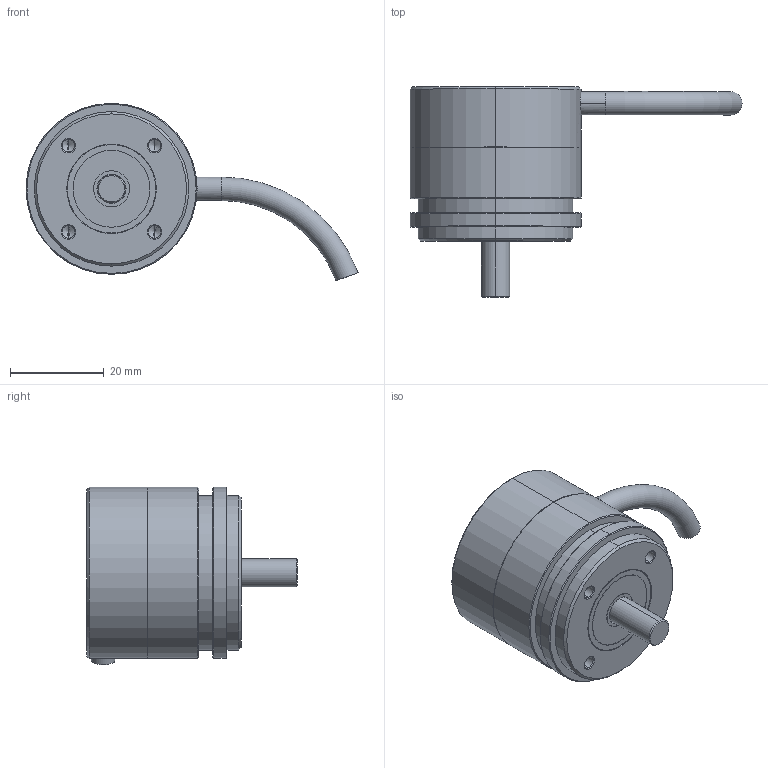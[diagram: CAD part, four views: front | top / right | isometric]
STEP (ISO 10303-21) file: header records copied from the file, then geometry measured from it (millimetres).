
FILE_DESCRIPTION (( 'STEP AP203' ), '1' );
FILE_NAME ('re36ip53radial-3d.step', '2006-09-05T12:59:58', ( '' ), ( '' ), 'SwSTEP 1.0', 'SolidWorks 1999313', '' );
FILE_SCHEMA (( 'CONFIG_CONTROL_DESIGN' ));
Length unit declared in the file: metre
Products named in the file (1): 1
Bounding box: 70.83 x 44.93 x 37.86 mm (x, y, z)
Volume: 34244.1 mm3; surface area: 7168.7 mm2
Topology: 1 solids, 1 shells, 76 faces, 158 edges, 91 vertices
Faces by surface type: cylinder 32, cone 30, plane 13, torus 1
Entity records: 2058 total; most frequent: DIRECTION 386, CARTESIAN_POINT 379, ORIENTED_EDGE 298, AXIS2_PLACEMENT_3D 162, EDGE_CURVE 149, EDGE_LOOP 92, VERTEX_POINT 91, CIRCLE 85
